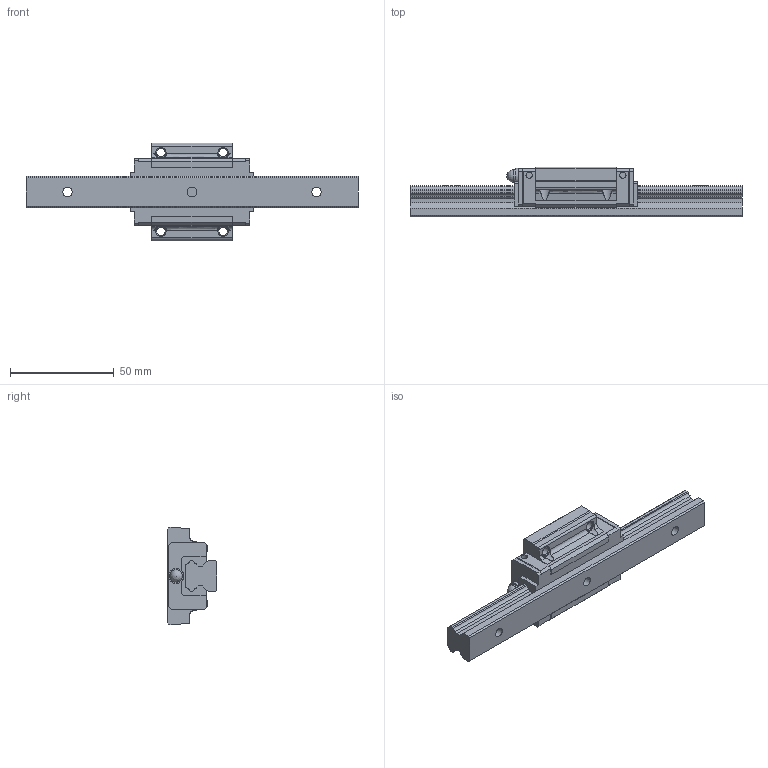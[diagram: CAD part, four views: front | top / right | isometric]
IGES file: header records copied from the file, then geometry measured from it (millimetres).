
Start section: Data from Parasolid IGES Translator 26.0.171, Copyright(c) 2006 Siemens PLM Software. All Rights Reserved.
Global section: file name: HSR15M1A1SS-160L_G20_0_PB1021B_50-2_0_0_0_1.igs; native system: By Siemens PLM Incorporated; preprocessor: XPlus GENERIC/IGES 26.0.171; author: Noname; organization: Noname; date: 20240523.060903; units: inch
Bounding box: 160 x 24 x 47 mm (x, y, z)
Surface area: 21453.8 mm2 (no closed solid volume)
Topology: 0 solids, 0 shells, 190 faces, 1023 edges, 997 vertices
Faces by surface type: extrusion 138, revolution 52
